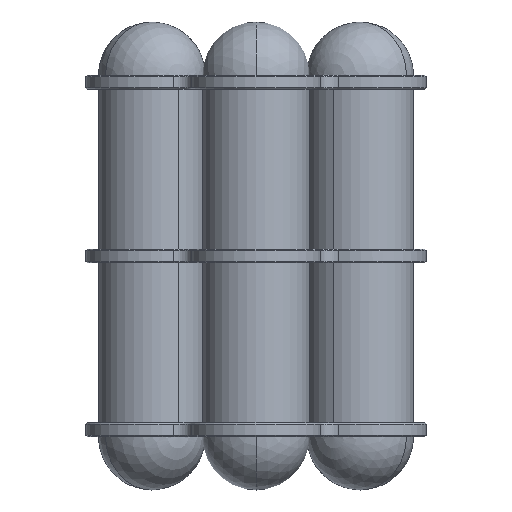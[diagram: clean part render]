
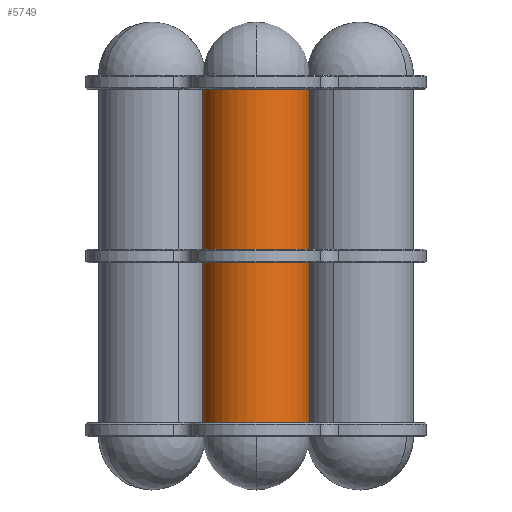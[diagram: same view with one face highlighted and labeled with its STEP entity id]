
A CAD part, front view. The second image highlights one B-rep face of the part: STEP entity #5749.
In plain terms, the highlighted cylindrical face has radius 38.5 mm (diameter 77 mm), a partial arc.
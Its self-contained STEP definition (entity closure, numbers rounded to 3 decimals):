
#77 = CIRCLE ( 'NONE', #1566, 38.5 ) ;
#214 = AXIS2_PLACEMENT_3D ( 'NONE', #3875, #4760, #7549 ) ;
#304 = VECTOR ( 'NONE', #2580, 1000. ) ;
#720 = DIRECTION ( 'NONE',  ( -1., 0., 0. ) ) ;
#1076 = ORIENTED_EDGE ( 'NONE', *, *, #7864, .F. ) ;
#1566 = AXIS2_PLACEMENT_3D ( 'NONE', #11372, #10474, #2376 ) ;
#1909 = EDGE_CURVE ( 'NONE', #5366, #9766, #6247, .T. ) ;
#2172 = CARTESIAN_POINT ( 'NONE',  ( 0., -125.103, -125. ) ) ;
#2174 = EDGE_CURVE ( 'NONE', #6851, #11038, #9295, .T. ) ;
#2376 = DIRECTION ( 'NONE',  ( -1., 0., 0. ) ) ;
#2524 = DIRECTION ( 'NONE',  ( -1., 0., 0. ) ) ;
#2529 = DIRECTION ( 'NONE',  ( 0., 0., 1. ) ) ;
#2580 = DIRECTION ( 'NONE',  ( 0., 0., 1. ) ) ;
#2728 = VECTOR ( 'NONE', #2529, 1000. ) ;
#2759 = EDGE_CURVE ( 'NONE', #11043, #6660, #11080, .T. ) ;
#2786 = ORIENTED_EDGE ( 'NONE', *, *, #2759, .T. ) ;
#2929 = EDGE_LOOP ( 'NONE', ( #3750, #2786, #8172, #6087, #1076, #8608 ) ) ;
#3750 = ORIENTED_EDGE ( 'NONE', *, *, #9187, .T. ) ;
#3875 = CARTESIAN_POINT ( 'NONE',  ( 0., -86.603, 135. ) ) ;
#4731 = CARTESIAN_POINT ( 'NONE',  ( 38.5, -86.603, -125. ) ) ;
#4760 = DIRECTION ( 'NONE',  ( 0., 0., 1. ) ) ;
#4922 = AXIS2_PLACEMENT_3D ( 'NONE', #11114, #7795, #2524 ) ;
#5190 = CARTESIAN_POINT ( 'NONE',  ( -38.5, -86.603, 135. ) ) ;
#5366 = VERTEX_POINT ( 'NONE', #11306 ) ;
#5601 = CARTESIAN_POINT ( 'NONE',  ( 38.5, -86.603, 135. ) ) ;
#5749 = ADVANCED_FACE ( 'NONE', ( #6968 ), #7522, .T. ) ;
#5776 = CARTESIAN_POINT ( 'NONE',  ( -38.5, -86.603, 135. ) ) ;
#5938 = DIRECTION ( 'NONE',  ( 0., 0., 1. ) ) ;
#6087 = ORIENTED_EDGE ( 'NONE', *, *, #2174, .F. ) ;
#6247 = LINE ( 'NONE', #5190, #304 ) ;
#6660 = VERTEX_POINT ( 'NONE', #4731 ) ;
#6851 = VERTEX_POINT ( 'NONE', #11115 ) ;
#6968 = FACE_OUTER_BOUND ( 'NONE', #2929, .T. ) ;
#7029 = CARTESIAN_POINT ( 'NONE',  ( 38.5, -86.603, 135. ) ) ;
#7522 = CYLINDRICAL_SURFACE ( 'NONE', #4922, 38.5 ) ;
#7547 = EDGE_CURVE ( 'NONE', #6660, #11038, #11519, .T. ) ;
#7549 = DIRECTION ( 'NONE',  ( -1., 0., 0. ) ) ;
#7795 = DIRECTION ( 'NONE',  ( 0., 0., 1. ) ) ;
#7864 = EDGE_CURVE ( 'NONE', #9766, #6851, #77, .T. ) ;
#7927 = CARTESIAN_POINT ( 'NONE',  ( 0., -86.603, -125. ) ) ;
#8156 = DIRECTION ( 'NONE',  ( -1., 0., 0. ) ) ;
#8172 = ORIENTED_EDGE ( 'NONE', *, *, #7547, .T. ) ;
#8400 = AXIS2_PLACEMENT_3D ( 'NONE', #7927, #10757, #8156 ) ;
#8608 = ORIENTED_EDGE ( 'NONE', *, *, #1909, .F. ) ;
#8773 = CARTESIAN_POINT ( 'NONE',  ( 0., -86.603, -125. ) ) ;
#9007 = AXIS2_PLACEMENT_3D ( 'NONE', #8773, #5938, #720 ) ;
#9187 = EDGE_CURVE ( 'NONE', #5366, #11043, #10435, .T. ) ;
#9295 = CIRCLE ( 'NONE', #214, 38.5 ) ;
#9766 = VERTEX_POINT ( 'NONE', #5776 ) ;
#10435 = CIRCLE ( 'NONE', #8400, 38.5 ) ;
#10474 = DIRECTION ( 'NONE',  ( 0., 0., 1. ) ) ;
#10757 = DIRECTION ( 'NONE',  ( 0., 0., 1. ) ) ;
#11038 = VERTEX_POINT ( 'NONE', #5601 ) ;
#11043 = VERTEX_POINT ( 'NONE', #2172 ) ;
#11080 = CIRCLE ( 'NONE', #9007, 38.5 ) ;
#11114 = CARTESIAN_POINT ( 'NONE',  ( 0., -86.603, 135. ) ) ;
#11115 = CARTESIAN_POINT ( 'NONE',  ( 0., -125.103, 135. ) ) ;
#11306 = CARTESIAN_POINT ( 'NONE',  ( -38.5, -86.603, -125. ) ) ;
#11372 = CARTESIAN_POINT ( 'NONE',  ( 0., -86.603, 135. ) ) ;
#11519 = LINE ( 'NONE', #7029, #2728 ) ;
